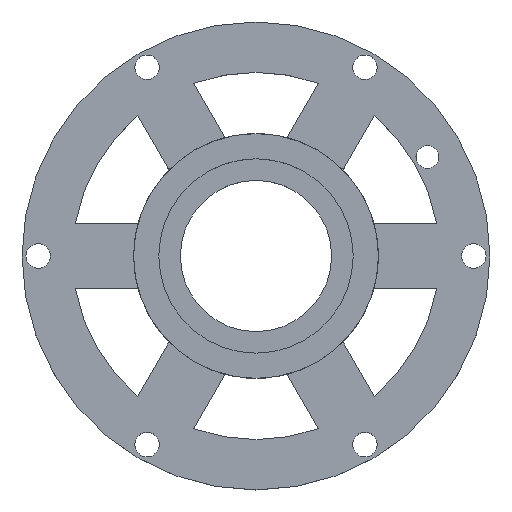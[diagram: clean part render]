
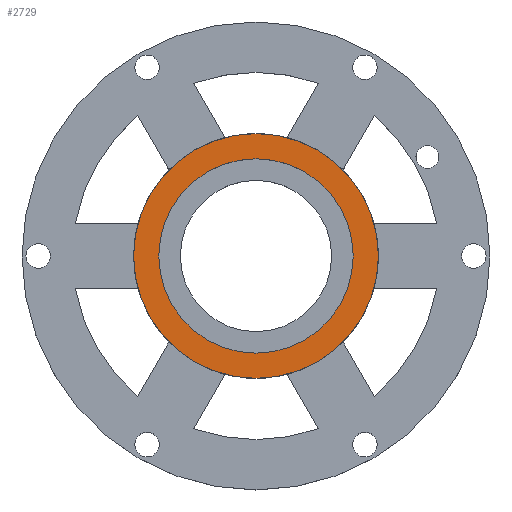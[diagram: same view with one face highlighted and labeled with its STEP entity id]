
A CAD part, top view. The second image highlights one B-rep face of the part: STEP entity #2729.
In plain terms, the highlighted planar face has unit normal (0, 0, 1).
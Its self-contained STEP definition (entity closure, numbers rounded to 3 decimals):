
#219 = CYLINDRICAL_SURFACE('',#220,17.);
#220 = AXIS2_PLACEMENT_3D('',#221,#222,#223);
#221 = CARTESIAN_POINT('',(0.,0.,0.));
#222 = DIRECTION('',(-0.,-0.,-1.));
#223 = DIRECTION('',(1.,0.,0.));
#1960 = VERTEX_POINT('',#1961);
#1961 = CARTESIAN_POINT('',(17.,0.,6.));
#1982 = EDGE_CURVE('',#1960,#1960,#1983,.T.);
#1983 = SURFACE_CURVE('',#1984,(#1989,#1996),.PCURVE_S1.);
#1984 = CIRCLE('',#1985,17.);
#1985 = AXIS2_PLACEMENT_3D('',#1986,#1987,#1988);
#1986 = CARTESIAN_POINT('',(0.,0.,6.));
#1987 = DIRECTION('',(0.,0.,1.));
#1988 = DIRECTION('',(1.,0.,0.));
#1989 = PCURVE('',#219,#1990);
#1990 = DEFINITIONAL_REPRESENTATION('',(#1991),#1995);
#1991 = LINE('',#1992,#1993);
#1992 = CARTESIAN_POINT('',(-0.,-6.));
#1993 = VECTOR('',#1994,1.);
#1994 = DIRECTION('',(-1.,0.));
#1995 = ( GEOMETRIC_REPRESENTATION_CONTEXT(2) 
PARAMETRIC_REPRESENTATION_CONTEXT() REPRESENTATION_CONTEXT('2D SPACE',''
  ) );
#1996 = PCURVE('',#1997,#2002);
#1997 = PLANE('',#1998);
#1998 = AXIS2_PLACEMENT_3D('',#1999,#2000,#2001);
#1999 = CARTESIAN_POINT('',(0.,0.,6.));
#2000 = DIRECTION('',(0.,0.,1.));
#2001 = DIRECTION('',(1.,0.,-0.));
#2002 = DEFINITIONAL_REPRESENTATION('',(#2003),#2007);
#2003 = CIRCLE('',#2004,17.);
#2004 = AXIS2_PLACEMENT_2D('',#2005,#2006);
#2005 = CARTESIAN_POINT('',(0.,0.));
#2006 = DIRECTION('',(1.,0.));
#2007 = ( GEOMETRIC_REPRESENTATION_CONTEXT(2) 
PARAMETRIC_REPRESENTATION_CONTEXT() REPRESENTATION_CONTEXT('2D SPACE',''
  ) );
#2729 = ADVANCED_FACE('',(#2730,#2733),#1997,.T.);
#2730 = FACE_BOUND('',#2731,.T.);
#2731 = EDGE_LOOP('',(#2732));
#2732 = ORIENTED_EDGE('',*,*,#1982,.T.);
#2733 = FACE_BOUND('',#2734,.T.);
#2734 = EDGE_LOOP('',(#2735));
#2735 = ORIENTED_EDGE('',*,*,#2736,.F.);
#2736 = EDGE_CURVE('',#2737,#2737,#2739,.T.);
#2737 = VERTEX_POINT('',#2738);
#2738 = CARTESIAN_POINT('',(13.5,0.,6.));
#2739 = SURFACE_CURVE('',#2740,(#2745,#2752),.PCURVE_S1.);
#2740 = CIRCLE('',#2741,13.5);
#2741 = AXIS2_PLACEMENT_3D('',#2742,#2743,#2744);
#2742 = CARTESIAN_POINT('',(0.,0.,6.));
#2743 = DIRECTION('',(0.,0.,1.));
#2744 = DIRECTION('',(1.,0.,0.));
#2745 = PCURVE('',#1997,#2746);
#2746 = DEFINITIONAL_REPRESENTATION('',(#2747),#2751);
#2747 = CIRCLE('',#2748,13.5);
#2748 = AXIS2_PLACEMENT_2D('',#2749,#2750);
#2749 = CARTESIAN_POINT('',(0.,0.));
#2750 = DIRECTION('',(1.,0.));
#2751 = ( GEOMETRIC_REPRESENTATION_CONTEXT(2) 
PARAMETRIC_REPRESENTATION_CONTEXT() REPRESENTATION_CONTEXT('2D SPACE',''
  ) );
#2752 = PCURVE('',#2753,#2758);
#2753 = CYLINDRICAL_SURFACE('',#2754,13.5);
#2754 = AXIS2_PLACEMENT_3D('',#2755,#2756,#2757);
#2755 = CARTESIAN_POINT('',(0.,0.,2.));
#2756 = DIRECTION('',(-0.,-0.,-1.));
#2757 = DIRECTION('',(1.,0.,0.));
#2758 = DEFINITIONAL_REPRESENTATION('',(#2759),#2763);
#2759 = LINE('',#2760,#2761);
#2760 = CARTESIAN_POINT('',(-0.,-4.));
#2761 = VECTOR('',#2762,1.);
#2762 = DIRECTION('',(-1.,0.));
#2763 = ( GEOMETRIC_REPRESENTATION_CONTEXT(2) 
PARAMETRIC_REPRESENTATION_CONTEXT() REPRESENTATION_CONTEXT('2D SPACE',''
  ) );
